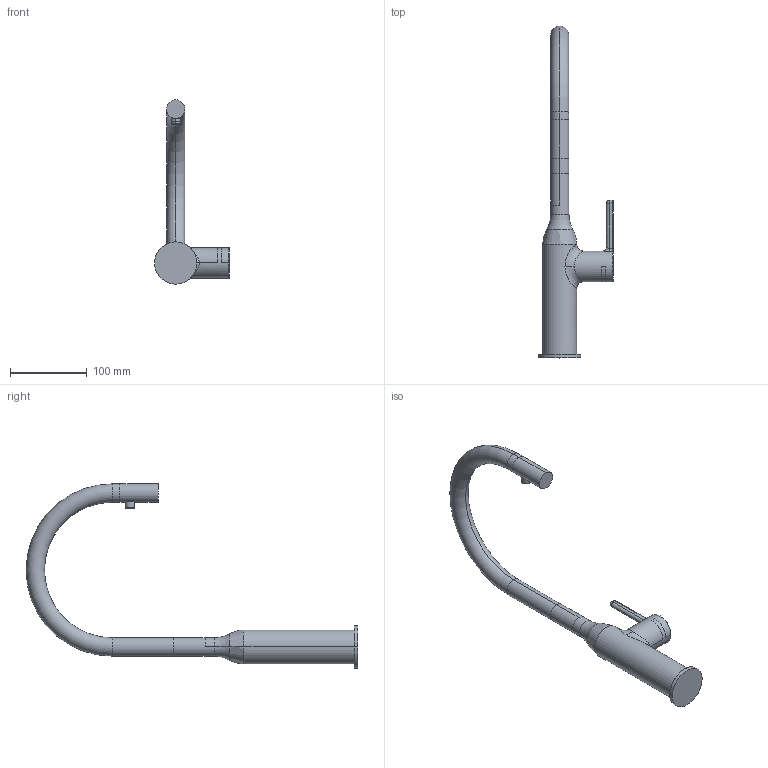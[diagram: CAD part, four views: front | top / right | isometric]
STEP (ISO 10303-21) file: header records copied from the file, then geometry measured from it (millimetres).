
FILE_DESCRIPTION((''),'2;1');
FILE_NAME('10_261_102_XXX','2012-01-05T',('ahf'),(''),'PRO/ENGINEER BY PARAMETRIC TECHNOLOGY CORPORATION, 2011080','PRO/ENGINEER BY PARAMETRIC TECHNOLOGY CORPORATION, 2011080','');
FILE_SCHEMA(('AUTOMOTIVE_DESIGN_CC2 { 1 2 10303 214 -1 1 5 2 }'));
Length unit declared in the file: millimetre
Products named in the file (1): 10_261_102_XXX
Bounding box: 97.26 x 431.25 x 239.5 mm (x, y, z)
Volume: 562253.5 mm3; surface area: 75402 mm2
Topology: 1 solids, 1 shells, 76 faces, 189 edges, 116 vertices
Faces by surface type: cylinder 30, plane 17, torus 14, bspline 9, cone 4, sphere 2
Entity records: 4001 total; most frequent: CARTESIAN_POINT 1544, DIRECTION 388, ORIENTED_EDGE 374, EDGE_CURVE 187, AXIS2_PLACEMENT_3D 163, VERTEX_POINT 116, CIRCLE 96, FILL_AREA_STYLE_COLOUR 92
